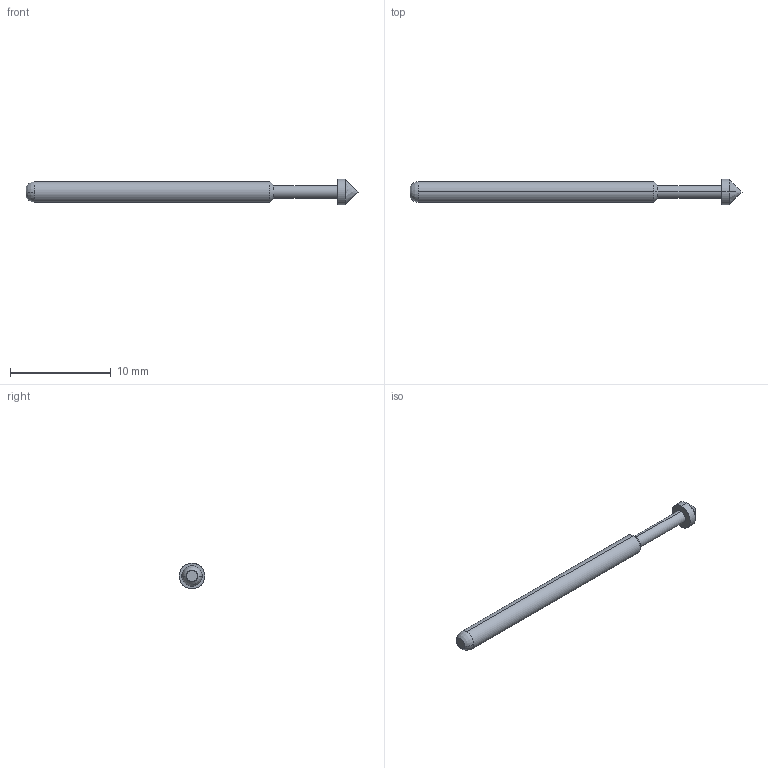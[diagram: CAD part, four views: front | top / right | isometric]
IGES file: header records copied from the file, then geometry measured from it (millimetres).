
Start section: SolidWorks IGES file using analytic representation for surfaces
Global section: file name: C:\Documents and Settings\mrumschlag\Desktop\changes\new\test\EPA-3E.IGS; native system: SolidWorks 2008; preprocessor: SolidWorks 2008; author: mrumschlag; date: 110414.162807; units: inch
Bounding box: 33.02 x 2.54 x 2.54 mm (x, y, z)
Surface area: 201.1 mm2 (no closed solid volume)
Topology: 0 solids, 0 shells, 14 faces, 116 edges, 114 vertices
Faces by surface type: revolution 12, bspline 2
